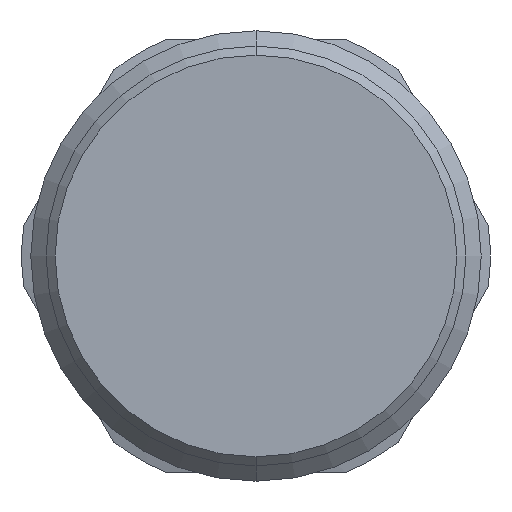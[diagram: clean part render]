
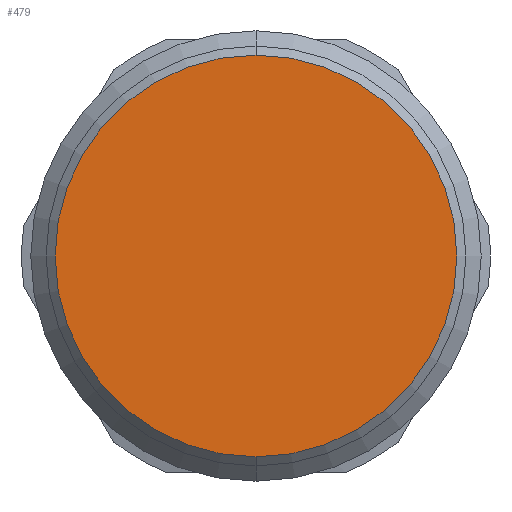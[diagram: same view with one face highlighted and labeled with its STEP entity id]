
A CAD part, front view. The second image highlights one B-rep face of the part: STEP entity #479.
In plain terms, the highlighted planar face has unit normal (0, -1, 0).
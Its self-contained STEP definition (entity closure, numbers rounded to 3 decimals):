
#454=CARTESIAN_POINT('',(0.0,-18.5,11.15));
#455=VERTEX_POINT('',#454);
#456=CARTESIAN_POINT('',(0.0,-18.5,-11.15));
#457=VERTEX_POINT('',#456);
#458=CARTESIAN_POINT('',(0.0,-18.5,0.0));
#459=DIRECTION('',(0.0,-1.0,0.0));
#460=DIRECTION('',(0.0,0.0,1.0));
#461=AXIS2_PLACEMENT_3D('',#458,#459,#460);
#462=CIRCLE('',#461,11.15);
#463=EDGE_CURVE('no 2216',#455,#457,#462,.T.);
#464=ORIENTED_EDGE('',*,*,#463,.T.);
#465=CARTESIAN_POINT('',(0.0,-18.5,0.0));
#466=DIRECTION('',(0.0,-1.0,0.0));
#467=DIRECTION('',(0.0,0.0,1.0));
#468=AXIS2_PLACEMENT_3D('',#465,#466,#467);
#469=CIRCLE('',#468,11.15);
#470=EDGE_CURVE('no 2220',#457,#455,#469,.T.);
#471=ORIENTED_EDGE('',*,*,#470,.T.);
#472=EDGE_LOOP('',(#464,#471));
#473=FACE_OUTER_BOUND('',#472,.T.);
#474=CARTESIAN_POINT('',(0.0,-18.5,0.0));
#475=DIRECTION('',(0.0,1.0,0.0));
#476=DIRECTION('',(0.0,0.0,1.0));
#477=AXIS2_PLACEMENT_3D('',#474,#475,#476);
#478=PLANE('',#477);
#479=ADVANCED_FACE('no 2207',(#473),#478,.F.);
